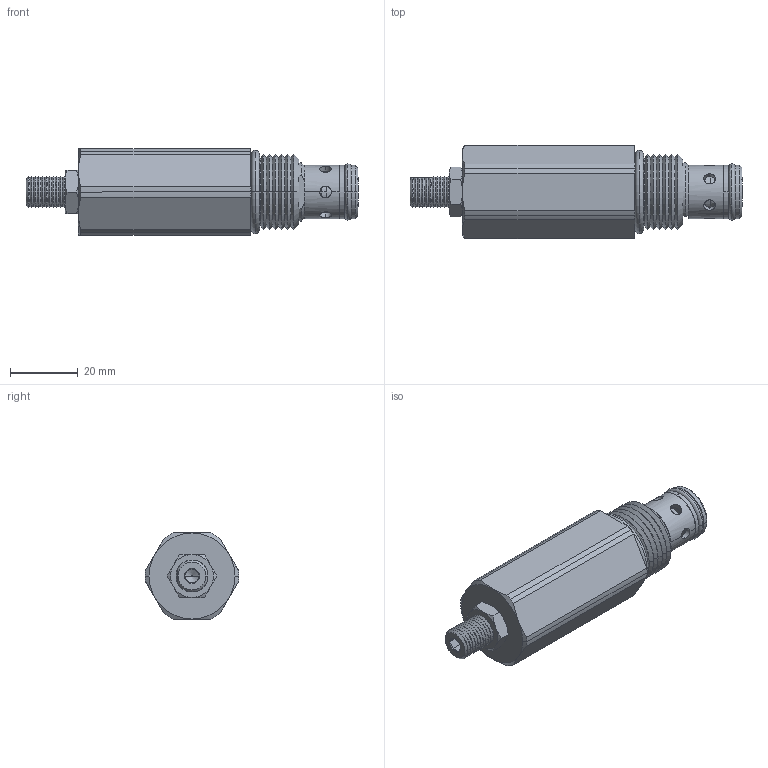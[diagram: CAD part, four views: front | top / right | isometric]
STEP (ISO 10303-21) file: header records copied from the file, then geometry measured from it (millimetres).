
FILE_DESCRIPTION((''),'2;1');
FILE_NAME('U:\Solid model CD\Solid model full\Mechanical\STEP\DERWA00-3D Full.stp','2008-07-28T16:21:50',('Dan'),(''),'Autodesk Inventor 9','Autodesk Inventor 9','');
FILE_SCHEMA(('AUTOMOTIVE_DESIGN { 1 0 10303 214 1 1 1 1 }'));
Length unit declared in the file: inch
Products named in the file (5): DERWA00-3D Full; DERWA00-3D Full1; DERWA00-3D Full2; DERWA00-3D Full3; DERWA00-3D Full4
Assembly tree (4 placements, depth 2):
  DERWA00-3D Full
    DERWA00-3D Full1
    DERWA00-3D Full2
    DERWA00-3D Full3
    DERWA00-3D Full4
Bounding box: 97.99 x 27.69 x 25.4 mm (x, y, z)
Volume: 37196.2 mm3; surface area: 9969.4 mm2
Topology: 4 solids, 4 shells, 213 faces, 498 edges, 291 vertices
Faces by surface type: cone 106, cylinder 44, plane 41, bspline 18, torus 4
Entity records: 6935 total; most frequent: CARTESIAN_POINT 2095, DIRECTION 1033, ORIENTED_EDGE 992, EDGE_CURVE 496, AXIS2_PLACEMENT_3D 435, VERTEX_POINT 291, EDGE_LOOP 235, CIRCLE 231
